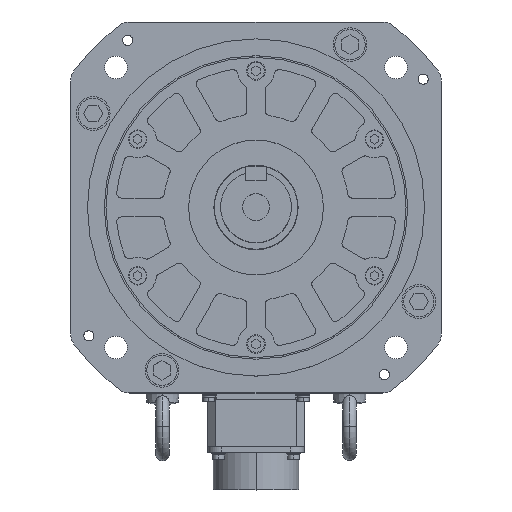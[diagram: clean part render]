
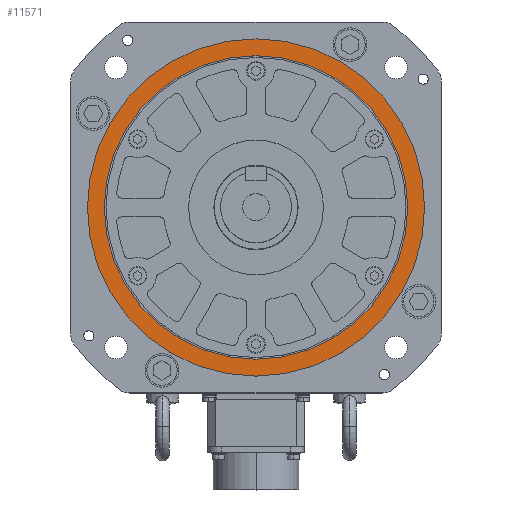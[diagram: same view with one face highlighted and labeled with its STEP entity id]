
A CAD part, top view. The second image highlights one B-rep face of the part: STEP entity #11571.
In plain terms, the highlighted planar face has unit normal (0, 0, 1).
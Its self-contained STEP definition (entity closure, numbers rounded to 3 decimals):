
#8772 = CARTESIAN_POINT ( 'NONE',  ( -100., 0., 4. ) ) ;
#8773 = CARTESIAN_POINT ( 'NONE',  ( 100., 0., 4. ) ) ;
#8783 = DIRECTION ( 'NONE',  ( 1., 0., 0. ) ) ;
#8784 = DIRECTION ( 'NONE',  ( 0., 0., 1. ) ) ;
#8785 = CARTESIAN_POINT ( 'NONE',  ( 0., 0., 4. ) ) ;
#8786 = AXIS2_PLACEMENT_3D ( 'NONE', #8785, #8784, #8783 ) ;
#8787 = CIRCLE ( 'NONE', #8786, 100. ) ;
#9311 = CARTESIAN_POINT ( 'NONE',  ( 90., 0., 4. ) ) ;
#9418 = CIRCLE ( 'NONE', #10014, 90. ) ;
#9963 = DIRECTION ( 'NONE',  ( 1., 0., 0. ) ) ;
#9964 = DIRECTION ( 'NONE',  ( 0., 0., 1. ) ) ;
#9965 = CARTESIAN_POINT ( 'NONE',  ( 0., 0., 4. ) ) ;
#9966 = AXIS2_PLACEMENT_3D ( 'NONE', #9965, #9964, #9963 ) ;
#9967 = CIRCLE ( 'NONE', #9966, 90. ) ;
#10011 = DIRECTION ( 'NONE',  ( 1., 0., 0. ) ) ;
#10012 = DIRECTION ( 'NONE',  ( 0., 0., 1. ) ) ;
#10013 = CARTESIAN_POINT ( 'NONE',  ( 0., 0., 4. ) ) ;
#10014 = AXIS2_PLACEMENT_3D ( 'NONE', #10013, #10012, #10011 ) ;
#10112 = DIRECTION ( 'NONE',  ( 1., 0., 0. ) ) ;
#10113 = DIRECTION ( 'NONE',  ( 0., 0., 1. ) ) ;
#10114 = CARTESIAN_POINT ( 'NONE',  ( 0., 0., 4. ) ) ;
#10115 = AXIS2_PLACEMENT_3D ( 'NONE', #10114, #10113, #10112 ) ;
#10116 = CIRCLE ( 'NONE', #10115, 100. ) ;
#10700 = CARTESIAN_POINT ( 'NONE',  ( -90., 0., 4. ) ) ;
#11240 = EDGE_LOOP ( 'NONE', ( #31842, #31809 ) ) ;
#11571 = ADVANCED_FACE ( 'NONE', ( #34409, #34408 ), #34407, .T. ) ;
#31155 = EDGE_CURVE ( 'NONE', #31161, #31162, #8787, .T. ) ;
#31161 = VERTEX_POINT ( 'NONE', #8773 ) ;
#31162 = VERTEX_POINT ( 'NONE', #8772 ) ;
#31413 = VERTEX_POINT ( 'NONE', #9311 ) ;
#31689 = ORIENTED_EDGE ( 'NONE', *, *, #31758, .F. ) ;
#31750 = ORIENTED_EDGE ( 'NONE', *, *, #31765, .F. ) ;
#31758 = EDGE_CURVE ( 'NONE', #32146, #31413, #9967, .T. ) ;
#31765 = EDGE_CURVE ( 'NONE', #31413, #32146, #9418, .T. ) ;
#31790 = EDGE_LOOP ( 'NONE', ( #31750, #31689 ) ) ;
#31809 = ORIENTED_EDGE ( 'NONE', *, *, #31155, .T. ) ;
#31811 = EDGE_CURVE ( 'NONE', #31162, #31161, #10116, .T. ) ;
#31842 = ORIENTED_EDGE ( 'NONE', *, *, #31811, .T. ) ;
#32146 = VERTEX_POINT ( 'NONE', #10700 ) ;
#34403 = DIRECTION ( 'NONE',  ( 1., 0., 0. ) ) ;
#34404 = DIRECTION ( 'NONE',  ( 0., 0., 1. ) ) ;
#34405 = CARTESIAN_POINT ( 'NONE',  ( 0., 0., 4. ) ) ;
#34406 = AXIS2_PLACEMENT_3D ( 'NONE', #34405, #34404, #34403 ) ;
#34407 = PLANE ( 'NONE',  #34406 ) ;
#34408 = FACE_BOUND ( 'NONE', #31790, .T. ) ;
#34409 = FACE_OUTER_BOUND ( 'NONE', #11240, .T. ) ;
